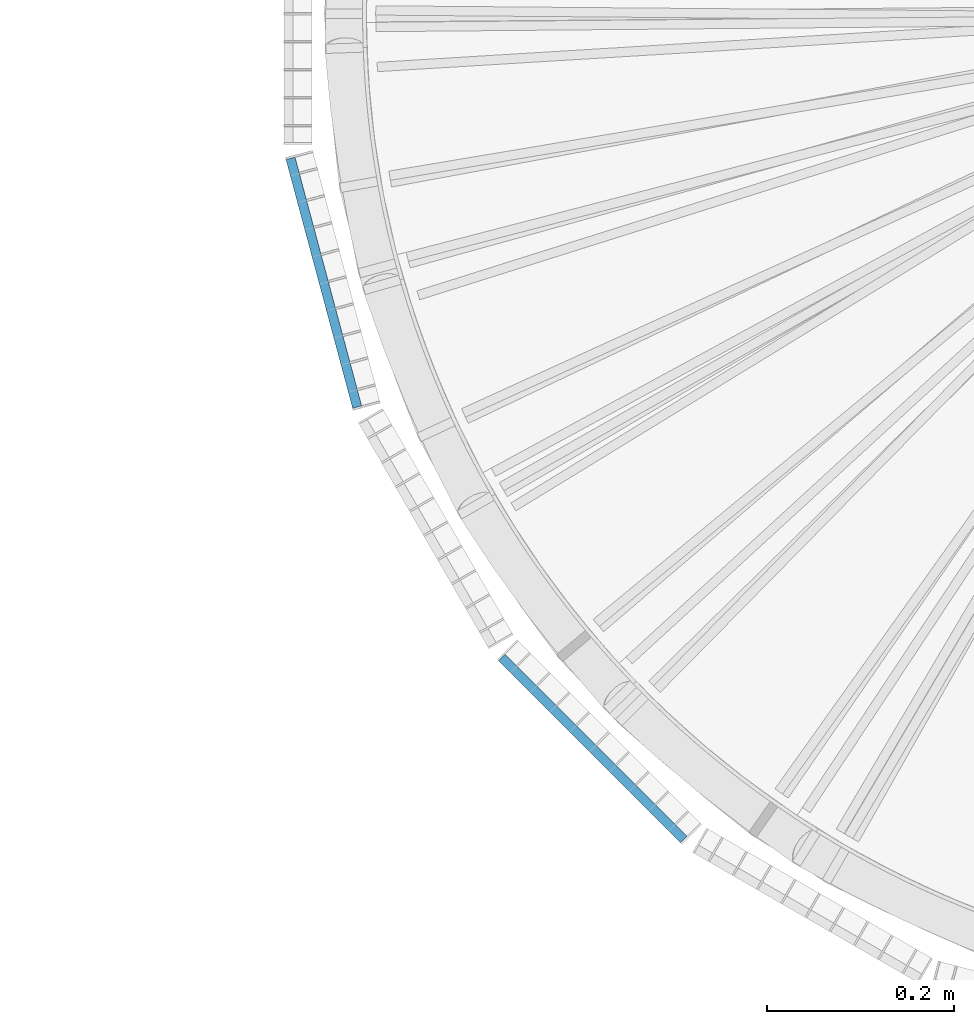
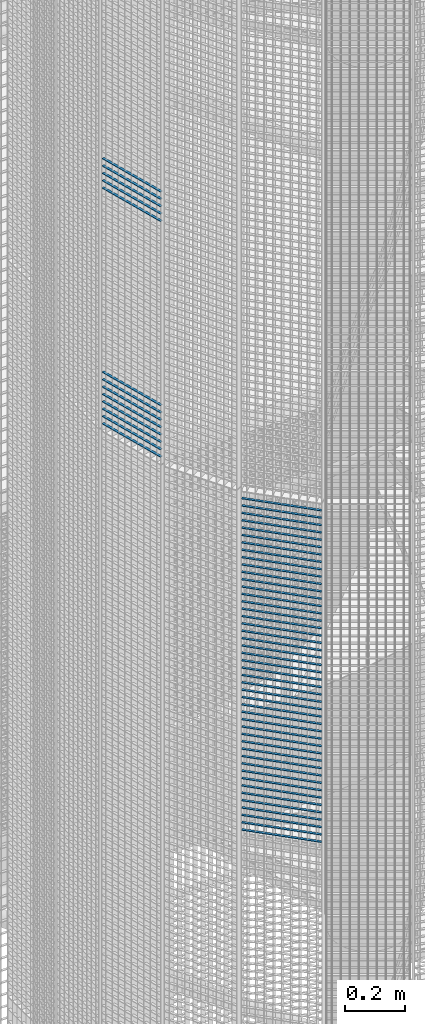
# One storey, part 119 of 1183: 59 beams, 2 elements without a shape of their own.
"""IFC2X3 building model written with IfcOpenShell, lengths in millimetres."""

from ifc_helpers import new_model, si_unit, frame, origin_with_axes, origin_2d_with_axis, place, context, subcontext, project, spatial, rectangle, extrude, material, type_object, element, aggregate, save


model = new_model("IFC2X3")

# Units and contexts
model_context = context("Model", 3, precision=1e-05, world=origin_with_axes())
body_context = subcontext(model_context, "Body", "Model", "MODEL_VIEW")
ifc_project = project(units=[si_unit("LENGTHUNIT", "METRE", prefix="MILLI"), si_unit("AREAUNIT", "SQUARE_METRE"), si_unit("VOLUMEUNIT", "CUBIC_METRE"), si_unit("MASSUNIT", "GRAM", prefix="KILO"), si_unit("TIMEUNIT", "SECOND"), si_unit("PLANEANGLEUNIT", "RADIAN"), si_unit("SOLIDANGLEUNIT", "STERADIAN"), si_unit("THERMODYNAMICTEMPERATUREUNIT", "DEGREE_CELSIUS"), si_unit("LUMINOUSINTENSITYUNIT", "LUMEN")], contexts=[model_context])

# Site, building, storey
site_placement = place(None, origin_with_axes())
site = spatial("IfcSite", under=ifc_project, at=site_placement, Name="Undefined", CompositionType="ELEMENT")
building_placement = place(site_placement, origin_with_axes())
building = spatial("IfcBuilding", under=site, at=building_placement, Name="Undefined", CompositionType="ELEMENT")
storey_placement = place(building_placement, origin_with_axes())
storey = spatial("IfcBuildingStorey", under=building, at=storey_placement, Name="Undefined", CompositionType="ELEMENT", Elevation=0.0)

# Assembly, beams
assembly_1_placement = place(storey_placement, origin_with_axes())
assembly_1 = element("IfcElementAssembly", 1, at=assembly_1_placement, inside=storey, Name="BORDURE", AssemblyPlace="NOTDEFINED", PredefinedType="NOTDEFINED")
ifc_material = material(Name="STEEL/S235JR")
beam_type = type_object("IfcBeamType", Name="PL2*10", PredefinedType="NOTDEFINED")
beam_1_placement = place(assembly_1_placement, frame((-1111.25508286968, -154.895926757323, 9990.0), z_axis=(-0.965925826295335, -0.258819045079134, 0.0), x_axis=(0.258819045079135, -0.965925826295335, 0.0)))
beam_1 = element("IfcBeam", 2, at=beam_1_placement, type_object=beam_type, material=ifc_material, Name="ENTRETOISE", context=body_context, shape_type="SweptSolid", body=[
    extrude(rectangle(XDim=2.0, YDim=10.0, at=origin_2d_with_axis()), frame((275.999999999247, 9.09494701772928e-13, 1.53210777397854e-14), z_axis=(-1.0, 0.0, 0.0), x_axis=(0.0, -1.0, 0.0)), (0.0, 0.0, 1.0), 276.0),
])
beam_2_placement = place(assembly_1_placement, frame((-1111.25508286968, -154.895926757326, 9240.0), z_axis=(-0.965925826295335, -0.258819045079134, 0.0), x_axis=(0.258819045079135, -0.965925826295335, 0.0)))
beam_2 = element("IfcBeam", 3, at=beam_2_placement, type_object=beam_type, material=ifc_material, Name="ENTRETOISE", context=body_context, shape_type="SweptSolid", body=[
    extrude(rectangle(XDim=2.0, YDim=10.0, at=origin_2d_with_axis()), frame((275.999999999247, 9.09494701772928e-13, 1.53210777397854e-14), z_axis=(-1.0, 0.0, 0.0), x_axis=(0.0, -1.0, 0.0)), (0.0, 0.0, 1.0), 276.0),
])
beam_3_placement = place(assembly_1_placement, frame((-1111.25508286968, -154.895926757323, 10020.0), z_axis=(-0.965925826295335, -0.258819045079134, 0.0), x_axis=(0.258819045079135, -0.965925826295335, 0.0)))
beam_3 = element("IfcBeam", 4, at=beam_3_placement, type_object=beam_type, material=ifc_material, Name="ENTRETOISE", context=body_context, shape_type="SweptSolid", body=[
    extrude(rectangle(XDim=2.0, YDim=10.0, at=origin_2d_with_axis()), frame((275.999999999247, 9.09494701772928e-13, 1.53210777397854e-14), z_axis=(-1.0, 0.0, 0.0), x_axis=(0.0, -1.0, 0.0)), (0.0, 0.0, 1.0), 276.0),
])
beam_4_placement = place(assembly_1_placement, frame((-1111.25508286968, -154.895926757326, 9210.0), z_axis=(-0.965925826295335, -0.258819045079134, 0.0), x_axis=(0.258819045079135, -0.965925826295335, 0.0)))
beam_4 = element("IfcBeam", 5, at=beam_4_placement, type_object=beam_type, material=ifc_material, Name="ENTRETOISE", context=body_context, shape_type="SweptSolid", body=[
    extrude(rectangle(XDim=2.0, YDim=10.0, at=origin_2d_with_axis()), frame((275.999999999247, 9.09494701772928e-13, 1.53210777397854e-14), z_axis=(-1.0, 0.0, 0.0), x_axis=(0.0, -1.0, 0.0)), (0.0, 0.0, 1.0), 276.0),
])
beam_5_placement = place(assembly_1_placement, frame((-1111.25508286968, -154.895926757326, 9180.0), z_axis=(-0.965925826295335, -0.258819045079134, 0.0), x_axis=(0.258819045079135, -0.965925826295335, 0.0)))
beam_5 = element("IfcBeam", 6, at=beam_5_placement, type_object=beam_type, material=ifc_material, Name="ENTRETOISE", context=body_context, shape_type="SweptSolid", body=[
    extrude(rectangle(XDim=2.0, YDim=10.0, at=origin_2d_with_axis()), frame((275.999999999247, 9.09494701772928e-13, 1.53210777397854e-14), z_axis=(-1.0, 0.0, 0.0), x_axis=(0.0, -1.0, 0.0)), (0.0, 0.0, 1.0), 276.0),
])
beam_6_placement = place(assembly_1_placement, frame((-1111.25508286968, -154.895926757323, 10050.0), z_axis=(-0.965925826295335, -0.258819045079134, 0.0), x_axis=(0.258819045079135, -0.965925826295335, 0.0)))
beam_6 = element("IfcBeam", 7, at=beam_6_placement, type_object=beam_type, material=ifc_material, Name="ENTRETOISE", context=body_context, shape_type="SweptSolid", body=[
    extrude(rectangle(XDim=2.0, YDim=10.0, at=origin_2d_with_axis()), frame((275.999999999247, 9.09494701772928e-13, 1.53210777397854e-14), z_axis=(-1.0, 0.0, 0.0), x_axis=(0.0, -1.0, 0.0)), (0.0, 0.0, 1.0), 276.0),
])
beam_7_placement = place(assembly_1_placement, frame((-1111.25508286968, -154.895926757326, 9150.0), z_axis=(-0.965925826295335, -0.258819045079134, 0.0), x_axis=(0.258819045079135, -0.965925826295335, 0.0)))
beam_7 = element("IfcBeam", 8, at=beam_7_placement, type_object=beam_type, material=ifc_material, Name="ENTRETOISE", context=body_context, shape_type="SweptSolid", body=[
    extrude(rectangle(XDim=2.0, YDim=10.0, at=origin_2d_with_axis()), frame((275.999999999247, 9.09494701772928e-13, 1.53210777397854e-14), z_axis=(-1.0, 0.0, 0.0), x_axis=(0.0, -1.0, 0.0)), (0.0, 0.0, 1.0), 276.0),
])
beam_8_placement = place(assembly_1_placement, frame((-1111.25508286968, -154.895926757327, 9120.0), z_axis=(-0.965925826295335, -0.258819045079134, 0.0), x_axis=(0.258819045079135, -0.965925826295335, 0.0)))
beam_8 = element("IfcBeam", 9, at=beam_8_placement, type_object=beam_type, material=ifc_material, Name="ENTRETOISE", context=body_context, shape_type="SweptSolid", body=[
    extrude(rectangle(XDim=2.0, YDim=10.0, at=origin_2d_with_axis()), frame((275.999999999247, 9.09494701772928e-13, 1.53210777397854e-14), z_axis=(-1.0, 0.0, 0.0), x_axis=(0.0, -1.0, 0.0)), (0.0, 0.0, 1.0), 276.0),
])
beam_9_placement = place(assembly_1_placement, frame((-1111.25508286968, -154.895926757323, 10080.0), z_axis=(-0.965925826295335, -0.258819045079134, 0.0), x_axis=(0.258819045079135, -0.965925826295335, 0.0)))
beam_9 = element("IfcBeam", 10, at=beam_9_placement, type_object=beam_type, material=ifc_material, Name="ENTRETOISE", context=body_context, shape_type="SweptSolid", body=[
    extrude(rectangle(XDim=2.0, YDim=10.0, at=origin_2d_with_axis()), frame((275.999999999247, 9.09494701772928e-13, 1.53210777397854e-14), z_axis=(-1.0, 0.0, 0.0), x_axis=(0.0, -1.0, 0.0)), (0.0, 0.0, 1.0), 276.0),
])
beam_10_placement = place(assembly_1_placement, frame((-1111.25508286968, -154.895926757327, 9090.0), z_axis=(-0.965925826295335, -0.258819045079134, 0.0), x_axis=(0.258819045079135, -0.965925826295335, 0.0)))
beam_10 = element("IfcBeam", 11, at=beam_10_placement, type_object=beam_type, material=ifc_material, Name="ENTRETOISE", context=body_context, shape_type="SweptSolid", body=[
    extrude(rectangle(XDim=2.0, YDim=10.0, at=origin_2d_with_axis()), frame((275.999999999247, 9.09494701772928e-13, 1.53210777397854e-14), z_axis=(-1.0, 0.0, 0.0), x_axis=(0.0, -1.0, 0.0)), (0.0, 0.0, 1.0), 276.0),
])
beam_11_placement = place(assembly_1_placement, frame((-1111.25508286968, -154.895926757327, 9060.0), z_axis=(-0.965925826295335, -0.258819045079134, 0.0), x_axis=(0.258819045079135, -0.965925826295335, 0.0)))
beam_11 = element("IfcBeam", 12, at=beam_11_placement, type_object=beam_type, material=ifc_material, Name="ENTRETOISE", context=body_context, shape_type="SweptSolid", body=[
    extrude(rectangle(XDim=2.0, YDim=10.0, at=origin_2d_with_axis()), frame((275.999999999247, 9.09494701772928e-13, 1.53210777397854e-14), z_axis=(-1.0, 0.0, 0.0), x_axis=(0.0, -1.0, 0.0)), (0.0, 0.0, 1.0), 276.0),
])
beam_12_placement = place(assembly_1_placement, frame((-1111.25508286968, -154.895926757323, 10110.0), z_axis=(-0.965925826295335, -0.258819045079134, 0.0), x_axis=(0.258819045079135, -0.965925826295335, 0.0)))
beam_12 = element("IfcBeam", 13, at=beam_12_placement, type_object=beam_type, material=ifc_material, Name="ENTRETOISE", context=body_context, shape_type="SweptSolid", body=[
    extrude(rectangle(XDim=2.0, YDim=10.0, at=origin_2d_with_axis()), frame((275.999999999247, 9.09494701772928e-13, 1.53210777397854e-14), z_axis=(-1.0, 0.0, 0.0), x_axis=(0.0, -1.0, 0.0)), (0.0, 0.0, 1.0), 276.0),
])
beam_13_placement = place(assembly_1_placement, frame((-1111.25508286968, -154.895926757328, 9030.0), z_axis=(-0.965925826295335, -0.258819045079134, 0.0), x_axis=(0.258819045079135, -0.965925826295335, 0.0)))
beam_13 = element("IfcBeam", 14, at=beam_13_placement, type_object=beam_type, material=ifc_material, Name="ENTRETOISE", context=body_context, shape_type="SweptSolid", body=[
    extrude(rectangle(XDim=2.0, YDim=10.0, at=origin_2d_with_axis()), frame((275.999999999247, 9.09494701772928e-13, 1.53210777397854e-14), z_axis=(-1.0, 0.0, 0.0), x_axis=(0.0, -1.0, 0.0)), (0.0, 0.0, 1.0), 276.0),
])
aggregate(assembly_1, [beam_1, beam_2, beam_3, beam_4, beam_5, beam_6, beam_7, beam_8, beam_9, beam_10, beam_11, beam_12, beam_13])

assembly_2_placement = place(storey_placement, origin_with_axes())
assembly_2 = element("IfcElementAssembly", 15, at=assembly_2_placement, inside=storey, Name="BORDURE", AssemblyPlace="NOTDEFINED", PredefinedType="NOTDEFINED")
beam_14_placement = place(assembly_2_placement, frame((-884.927168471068, -689.771348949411, 8970.0), z_axis=(-0.70710678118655, -0.707106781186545, 0.0), x_axis=(0.707106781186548, -0.707106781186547, 0.0)))
beam_14 = element("IfcBeam", 16, at=beam_14_placement, type_object=beam_type, material=ifc_material, Name="ENTRETOISE", context=body_context, shape_type="SweptSolid", body=[
    extrude(rectangle(XDim=2.0, YDim=10.0, at=origin_2d_with_axis()), frame((275.999999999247, 9.09494701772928e-13, 1.53210777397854e-14), z_axis=(-1.0, 0.0, 0.0), x_axis=(0.0, -1.0, 0.0)), (0.0, 0.0, 1.0), 276.0),
])
beam_15_placement = place(assembly_2_placement, frame((-884.927168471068, -689.771348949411, 8940.0), z_axis=(-0.70710678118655, -0.707106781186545, 0.0), x_axis=(0.707106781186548, -0.707106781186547, 0.0)))
beam_15 = element("IfcBeam", 17, at=beam_15_placement, type_object=beam_type, material=ifc_material, Name="ENTRETOISE", context=body_context, shape_type="SweptSolid", body=[
    extrude(rectangle(XDim=2.0, YDim=10.0, at=origin_2d_with_axis()), frame((275.999999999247, 9.09494701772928e-13, 1.53210777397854e-14), z_axis=(-1.0, 0.0, 0.0), x_axis=(0.0, -1.0, 0.0)), (0.0, 0.0, 1.0), 276.0),
])
beam_16_placement = place(assembly_2_placement, frame((-884.927168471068, -689.771348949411, 8910.0), z_axis=(-0.70710678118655, -0.707106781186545, 0.0), x_axis=(0.707106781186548, -0.707106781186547, 0.0)))
beam_16 = element("IfcBeam", 18, at=beam_16_placement, type_object=beam_type, material=ifc_material, Name="ENTRETOISE", context=body_context, shape_type="SweptSolid", body=[
    extrude(rectangle(XDim=2.0, YDim=10.0, at=origin_2d_with_axis()), frame((275.999999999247, 9.09494701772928e-13, 1.53210777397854e-14), z_axis=(-1.0, 0.0, 0.0), x_axis=(0.0, -1.0, 0.0)), (0.0, 0.0, 1.0), 276.0),
])
beam_17_placement = place(assembly_2_placement, frame((-884.927168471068, -689.771348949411, 8880.0), z_axis=(-0.70710678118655, -0.707106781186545, 0.0), x_axis=(0.707106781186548, -0.707106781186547, 0.0)))
beam_17 = element("IfcBeam", 19, at=beam_17_placement, type_object=beam_type, material=ifc_material, Name="ENTRETOISE", context=body_context, shape_type="SweptSolid", body=[
    extrude(rectangle(XDim=2.0, YDim=10.0, at=origin_2d_with_axis()), frame((275.999999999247, 9.09494701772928e-13, 1.53210777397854e-14), z_axis=(-1.0, 0.0, 0.0), x_axis=(0.0, -1.0, 0.0)), (0.0, 0.0, 1.0), 276.0),
])
beam_18_placement = place(assembly_2_placement, frame((-884.927168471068, -689.771348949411, 8850.0), z_axis=(-0.70710678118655, -0.707106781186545, 0.0), x_axis=(0.707106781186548, -0.707106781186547, 0.0)))
beam_18 = element("IfcBeam", 20, at=beam_18_placement, type_object=beam_type, material=ifc_material, Name="ENTRETOISE", context=body_context, shape_type="SweptSolid", body=[
    extrude(rectangle(XDim=2.0, YDim=10.0, at=origin_2d_with_axis()), frame((275.999999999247, 9.09494701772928e-13, 1.53210777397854e-14), z_axis=(-1.0, 0.0, 0.0), x_axis=(0.0, -1.0, 0.0)), (0.0, 0.0, 1.0), 276.0),
])
beam_19_placement = place(assembly_2_placement, frame((-884.927168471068, -689.771348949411, 8820.0), z_axis=(-0.70710678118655, -0.707106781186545, 0.0), x_axis=(0.707106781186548, -0.707106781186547, 0.0)))
beam_19 = element("IfcBeam", 21, at=beam_19_placement, type_object=beam_type, material=ifc_material, Name="ENTRETOISE", context=body_context, shape_type="SweptSolid", body=[
    extrude(rectangle(XDim=2.0, YDim=10.0, at=origin_2d_with_axis()), frame((275.999999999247, 9.09494701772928e-13, 1.53210777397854e-14), z_axis=(-1.0, 0.0, 0.0), x_axis=(0.0, -1.0, 0.0)), (0.0, 0.0, 1.0), 276.0),
])
beam_20_placement = place(assembly_2_placement, frame((-884.927168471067, -689.771348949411, 8790.0), z_axis=(-0.70710678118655, -0.707106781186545, 0.0), x_axis=(0.707106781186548, -0.707106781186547, 0.0)))
beam_20 = element("IfcBeam", 22, at=beam_20_placement, type_object=beam_type, material=ifc_material, Name="ENTRETOISE", context=body_context, shape_type="SweptSolid", body=[
    extrude(rectangle(XDim=2.0, YDim=10.0, at=origin_2d_with_axis()), frame((275.999999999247, 9.09494701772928e-13, 1.53210777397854e-14), z_axis=(-1.0, 0.0, 0.0), x_axis=(0.0, -1.0, 0.0)), (0.0, 0.0, 1.0), 276.0),
])
beam_21_placement = place(assembly_2_placement, frame((-884.927168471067, -689.771348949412, 8760.0), z_axis=(-0.70710678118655, -0.707106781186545, 0.0), x_axis=(0.707106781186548, -0.707106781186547, 0.0)))
beam_21 = element("IfcBeam", 23, at=beam_21_placement, type_object=beam_type, material=ifc_material, Name="ENTRETOISE", context=body_context, shape_type="SweptSolid", body=[
    extrude(rectangle(XDim=2.0, YDim=10.0, at=origin_2d_with_axis()), frame((275.999999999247, 9.09494701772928e-13, 1.53210777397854e-14), z_axis=(-1.0, 0.0, 0.0), x_axis=(0.0, -1.0, 0.0)), (0.0, 0.0, 1.0), 276.0),
])
beam_22_placement = place(assembly_2_placement, frame((-884.927168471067, -689.771348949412, 8730.0), z_axis=(-0.70710678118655, -0.707106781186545, 0.0), x_axis=(0.707106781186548, -0.707106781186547, 0.0)))
beam_22 = element("IfcBeam", 24, at=beam_22_placement, type_object=beam_type, material=ifc_material, Name="ENTRETOISE", context=body_context, shape_type="SweptSolid", body=[
    extrude(rectangle(XDim=2.0, YDim=10.0, at=origin_2d_with_axis()), frame((275.999999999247, 9.09494701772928e-13, 1.53210777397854e-14), z_axis=(-1.0, 0.0, 0.0), x_axis=(0.0, -1.0, 0.0)), (0.0, 0.0, 1.0), 276.0),
])
beam_23_placement = place(assembly_2_placement, frame((-884.927168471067, -689.771348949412, 8700.0), z_axis=(-0.70710678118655, -0.707106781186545, 0.0), x_axis=(0.707106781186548, -0.707106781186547, 0.0)))
beam_23 = element("IfcBeam", 25, at=beam_23_placement, type_object=beam_type, material=ifc_material, Name="ENTRETOISE", context=body_context, shape_type="SweptSolid", body=[
    extrude(rectangle(XDim=2.0, YDim=10.0, at=origin_2d_with_axis()), frame((275.999999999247, 9.09494701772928e-13, 1.53210777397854e-14), z_axis=(-1.0, 0.0, 0.0), x_axis=(0.0, -1.0, 0.0)), (0.0, 0.0, 1.0), 276.0),
])
beam_24_placement = place(assembly_2_placement, frame((-884.927168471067, -689.771348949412, 8670.0), z_axis=(-0.70710678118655, -0.707106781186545, 0.0), x_axis=(0.707106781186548, -0.707106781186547, 0.0)))
beam_24 = element("IfcBeam", 26, at=beam_24_placement, type_object=beam_type, material=ifc_material, Name="ENTRETOISE", context=body_context, shape_type="SweptSolid", body=[
    extrude(rectangle(XDim=2.0, YDim=10.0, at=origin_2d_with_axis()), frame((275.999999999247, 9.09494701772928e-13, 1.53210777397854e-14), z_axis=(-1.0, 0.0, 0.0), x_axis=(0.0, -1.0, 0.0)), (0.0, 0.0, 1.0), 276.0),
])
beam_25_placement = place(assembly_2_placement, frame((-884.927168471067, -689.771348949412, 8640.0), z_axis=(-0.70710678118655, -0.707106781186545, 0.0), x_axis=(0.707106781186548, -0.707106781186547, 0.0)))
beam_25 = element("IfcBeam", 27, at=beam_25_placement, type_object=beam_type, material=ifc_material, Name="ENTRETOISE", context=body_context, shape_type="SweptSolid", body=[
    extrude(rectangle(XDim=2.0, YDim=10.0, at=origin_2d_with_axis()), frame((275.999999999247, 9.09494701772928e-13, 1.53210777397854e-14), z_axis=(-1.0, 0.0, 0.0), x_axis=(0.0, -1.0, 0.0)), (0.0, 0.0, 1.0), 276.0),
])
beam_26_placement = place(assembly_2_placement, frame((-884.927168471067, -689.771348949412, 8610.0), z_axis=(-0.70710678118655, -0.707106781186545, 0.0), x_axis=(0.707106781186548, -0.707106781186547, 0.0)))
beam_26 = element("IfcBeam", 28, at=beam_26_placement, type_object=beam_type, material=ifc_material, Name="ENTRETOISE", context=body_context, shape_type="SweptSolid", body=[
    extrude(rectangle(XDim=2.0, YDim=10.0, at=origin_2d_with_axis()), frame((275.999999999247, 9.09494701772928e-13, 1.53210777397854e-14), z_axis=(-1.0, 0.0, 0.0), x_axis=(0.0, -1.0, 0.0)), (0.0, 0.0, 1.0), 276.0),
])
beam_27_placement = place(assembly_2_placement, frame((-884.927168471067, -689.771348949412, 8580.0), z_axis=(-0.70710678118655, -0.707106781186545, 0.0), x_axis=(0.707106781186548, -0.707106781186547, 0.0)))
beam_27 = element("IfcBeam", 29, at=beam_27_placement, type_object=beam_type, material=ifc_material, Name="ENTRETOISE", context=body_context, shape_type="SweptSolid", body=[
    extrude(rectangle(XDim=2.0, YDim=10.0, at=origin_2d_with_axis()), frame((275.999999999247, 9.09494701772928e-13, 1.53210777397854e-14), z_axis=(-1.0, 0.0, 0.0), x_axis=(0.0, -1.0, 0.0)), (0.0, 0.0, 1.0), 276.0),
])
beam_28_placement = place(assembly_2_placement, frame((-884.927168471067, -689.771348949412, 8550.0), z_axis=(-0.70710678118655, -0.707106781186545, 0.0), x_axis=(0.707106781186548, -0.707106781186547, 0.0)))
beam_28 = element("IfcBeam", 30, at=beam_28_placement, type_object=beam_type, material=ifc_material, Name="ENTRETOISE", context=body_context, shape_type="SweptSolid", body=[
    extrude(rectangle(XDim=2.0, YDim=10.0, at=origin_2d_with_axis()), frame((275.999999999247, 9.09494701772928e-13, 1.53210777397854e-14), z_axis=(-1.0, 0.0, 0.0), x_axis=(0.0, -1.0, 0.0)), (0.0, 0.0, 1.0), 276.0),
])
beam_29_placement = place(assembly_2_placement, frame((-884.927168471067, -689.771348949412, 8520.0), z_axis=(-0.70710678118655, -0.707106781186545, 0.0), x_axis=(0.707106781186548, -0.707106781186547, 0.0)))
beam_29 = element("IfcBeam", 31, at=beam_29_placement, type_object=beam_type, material=ifc_material, Name="ENTRETOISE", context=body_context, shape_type="SweptSolid", body=[
    extrude(rectangle(XDim=2.0, YDim=10.0, at=origin_2d_with_axis()), frame((275.999999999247, 9.09494701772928e-13, 1.53210777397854e-14), z_axis=(-1.0, 0.0, 0.0), x_axis=(0.0, -1.0, 0.0)), (0.0, 0.0, 1.0), 276.0),
])
beam_30_placement = place(assembly_2_placement, frame((-884.927168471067, -689.771348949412, 8490.0), z_axis=(-0.70710678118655, -0.707106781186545, 0.0), x_axis=(0.707106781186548, -0.707106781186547, 0.0)))
beam_30 = element("IfcBeam", 32, at=beam_30_placement, type_object=beam_type, material=ifc_material, Name="ENTRETOISE", context=body_context, shape_type="SweptSolid", body=[
    extrude(rectangle(XDim=2.0, YDim=10.0, at=origin_2d_with_axis()), frame((275.999999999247, 9.09494701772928e-13, 1.53210777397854e-14), z_axis=(-1.0, 0.0, 0.0), x_axis=(0.0, -1.0, 0.0)), (0.0, 0.0, 1.0), 276.0),
])
beam_31_placement = place(assembly_2_placement, frame((-884.927168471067, -689.771348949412, 8460.0), z_axis=(-0.70710678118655, -0.707106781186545, 0.0), x_axis=(0.707106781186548, -0.707106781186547, 0.0)))
beam_31 = element("IfcBeam", 33, at=beam_31_placement, type_object=beam_type, material=ifc_material, Name="ENTRETOISE", context=body_context, shape_type="SweptSolid", body=[
    extrude(rectangle(XDim=2.0, YDim=10.0, at=origin_2d_with_axis()), frame((275.999999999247, 9.09494701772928e-13, 1.53210777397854e-14), z_axis=(-1.0, 0.0, 0.0), x_axis=(0.0, -1.0, 0.0)), (0.0, 0.0, 1.0), 276.0),
])
beam_32_placement = place(assembly_2_placement, frame((-884.927168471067, -689.771348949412, 8430.0), z_axis=(-0.70710678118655, -0.707106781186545, 0.0), x_axis=(0.707106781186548, -0.707106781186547, 0.0)))
beam_32 = element("IfcBeam", 34, at=beam_32_placement, type_object=beam_type, material=ifc_material, Name="ENTRETOISE", context=body_context, shape_type="SweptSolid", body=[
    extrude(rectangle(XDim=2.0, YDim=10.0, at=origin_2d_with_axis()), frame((275.999999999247, 9.09494701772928e-13, 1.53210777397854e-14), z_axis=(-1.0, 0.0, 0.0), x_axis=(0.0, -1.0, 0.0)), (0.0, 0.0, 1.0), 276.0),
])
beam_33_placement = place(assembly_2_placement, frame((-884.927168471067, -689.771348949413, 8400.0), z_axis=(-0.70710678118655, -0.707106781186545, 0.0), x_axis=(0.707106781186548, -0.707106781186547, 0.0)))
beam_33 = element("IfcBeam", 35, at=beam_33_placement, type_object=beam_type, material=ifc_material, Name="ENTRETOISE", context=body_context, shape_type="SweptSolid", body=[
    extrude(rectangle(XDim=2.0, YDim=10.0, at=origin_2d_with_axis()), frame((275.999999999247, 9.09494701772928e-13, 1.53210777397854e-14), z_axis=(-1.0, 0.0, 0.0), x_axis=(0.0, -1.0, 0.0)), (0.0, 0.0, 1.0), 276.0),
])
beam_34_placement = place(assembly_2_placement, frame((-884.927168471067, -689.771348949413, 8370.0), z_axis=(-0.70710678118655, -0.707106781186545, 0.0), x_axis=(0.707106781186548, -0.707106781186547, 0.0)))
beam_34 = element("IfcBeam", 36, at=beam_34_placement, type_object=beam_type, material=ifc_material, Name="ENTRETOISE", context=body_context, shape_type="SweptSolid", body=[
    extrude(rectangle(XDim=2.0, YDim=10.0, at=origin_2d_with_axis()), frame((275.999999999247, 9.09494701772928e-13, 1.53210777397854e-14), z_axis=(-1.0, 0.0, 0.0), x_axis=(0.0, -1.0, 0.0)), (0.0, 0.0, 1.0), 276.0),
])
beam_35_placement = place(assembly_2_placement, frame((-884.927168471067, -689.771348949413, 8340.0), z_axis=(-0.70710678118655, -0.707106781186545, 0.0), x_axis=(0.707106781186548, -0.707106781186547, 0.0)))
beam_35 = element("IfcBeam", 37, at=beam_35_placement, type_object=beam_type, material=ifc_material, Name="ENTRETOISE", context=body_context, shape_type="SweptSolid", body=[
    extrude(rectangle(XDim=2.0, YDim=10.0, at=origin_2d_with_axis()), frame((275.999999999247, 9.09494701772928e-13, 1.53210777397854e-14), z_axis=(-1.0, 0.0, 0.0), x_axis=(0.0, -1.0, 0.0)), (0.0, 0.0, 1.0), 276.0),
])
beam_36_placement = place(assembly_2_placement, frame((-884.927168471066, -689.771348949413, 8310.0), z_axis=(-0.70710678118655, -0.707106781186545, 0.0), x_axis=(0.707106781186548, -0.707106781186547, 0.0)))
beam_36 = element("IfcBeam", 38, at=beam_36_placement, type_object=beam_type, material=ifc_material, Name="ENTRETOISE", context=body_context, shape_type="SweptSolid", body=[
    extrude(rectangle(XDim=2.0, YDim=10.0, at=origin_2d_with_axis()), frame((275.999999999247, 9.09494701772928e-13, 1.53210777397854e-14), z_axis=(-1.0, 0.0, 0.0), x_axis=(0.0, -1.0, 0.0)), (0.0, 0.0, 1.0), 276.0),
])
beam_37_placement = place(assembly_2_placement, frame((-884.927168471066, -689.771348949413, 8280.0), z_axis=(-0.70710678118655, -0.707106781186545, 0.0), x_axis=(0.707106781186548, -0.707106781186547, 0.0)))
beam_37 = element("IfcBeam", 39, at=beam_37_placement, type_object=beam_type, material=ifc_material, Name="ENTRETOISE", context=body_context, shape_type="SweptSolid", body=[
    extrude(rectangle(XDim=2.0, YDim=10.0, at=origin_2d_with_axis()), frame((275.999999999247, 9.09494701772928e-13, 1.53210777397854e-14), z_axis=(-1.0, 0.0, 0.0), x_axis=(0.0, -1.0, 0.0)), (0.0, 0.0, 1.0), 276.0),
])
beam_38_placement = place(assembly_2_placement, frame((-884.927168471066, -689.771348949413, 8250.0), z_axis=(-0.70710678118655, -0.707106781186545, 0.0), x_axis=(0.707106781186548, -0.707106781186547, 0.0)))
beam_38 = element("IfcBeam", 40, at=beam_38_placement, type_object=beam_type, material=ifc_material, Name="ENTRETOISE", context=body_context, shape_type="SweptSolid", body=[
    extrude(rectangle(XDim=2.0, YDim=10.0, at=origin_2d_with_axis()), frame((275.999999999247, 9.09494701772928e-13, 1.53210777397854e-14), z_axis=(-1.0, 0.0, 0.0), x_axis=(0.0, -1.0, 0.0)), (0.0, 0.0, 1.0), 276.0),
])
beam_39_placement = place(assembly_2_placement, frame((-884.927168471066, -689.771348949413, 8220.0), z_axis=(-0.70710678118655, -0.707106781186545, 0.0), x_axis=(0.707106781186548, -0.707106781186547, 0.0)))
beam_39 = element("IfcBeam", 41, at=beam_39_placement, type_object=beam_type, material=ifc_material, Name="ENTRETOISE", context=body_context, shape_type="SweptSolid", body=[
    extrude(rectangle(XDim=2.0, YDim=10.0, at=origin_2d_with_axis()), frame((275.999999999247, 9.09494701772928e-13, 1.53210777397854e-14), z_axis=(-1.0, 0.0, 0.0), x_axis=(0.0, -1.0, 0.0)), (0.0, 0.0, 1.0), 276.0),
])
beam_40_placement = place(assembly_2_placement, frame((-884.927168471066, -689.771348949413, 8190.0), z_axis=(-0.70710678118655, -0.707106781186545, 0.0), x_axis=(0.707106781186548, -0.707106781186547, 0.0)))
beam_40 = element("IfcBeam", 42, at=beam_40_placement, type_object=beam_type, material=ifc_material, Name="ENTRETOISE", context=body_context, shape_type="SweptSolid", body=[
    extrude(rectangle(XDim=2.0, YDim=10.0, at=origin_2d_with_axis()), frame((275.999999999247, 9.09494701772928e-13, 1.53210777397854e-14), z_axis=(-1.0, 0.0, 0.0), x_axis=(0.0, -1.0, 0.0)), (0.0, 0.0, 1.0), 276.0),
])
beam_41_placement = place(assembly_2_placement, frame((-884.927168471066, -689.771348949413, 8160.0), z_axis=(-0.70710678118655, -0.707106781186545, 0.0), x_axis=(0.707106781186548, -0.707106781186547, 0.0)))
beam_41 = element("IfcBeam", 43, at=beam_41_placement, type_object=beam_type, material=ifc_material, Name="ENTRETOISE", context=body_context, shape_type="SweptSolid", body=[
    extrude(rectangle(XDim=2.0, YDim=10.0, at=origin_2d_with_axis()), frame((275.999999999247, 9.09494701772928e-13, 1.53210777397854e-14), z_axis=(-1.0, 0.0, 0.0), x_axis=(0.0, -1.0, 0.0)), (0.0, 0.0, 1.0), 276.0),
])
beam_42_placement = place(assembly_2_placement, frame((-884.927168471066, -689.771348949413, 8130.0), z_axis=(-0.70710678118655, -0.707106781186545, 0.0), x_axis=(0.707106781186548, -0.707106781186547, 0.0)))
beam_42 = element("IfcBeam", 44, at=beam_42_placement, type_object=beam_type, material=ifc_material, Name="ENTRETOISE", context=body_context, shape_type="SweptSolid", body=[
    extrude(rectangle(XDim=2.0, YDim=10.0, at=origin_2d_with_axis()), frame((275.999999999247, 9.09494701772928e-13, 1.53210777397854e-14), z_axis=(-1.0, 0.0, 0.0), x_axis=(0.0, -1.0, 0.0)), (0.0, 0.0, 1.0), 276.0),
])
beam_43_placement = place(assembly_2_placement, frame((-884.927168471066, -689.771348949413, 8100.0), z_axis=(-0.70710678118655, -0.707106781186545, 0.0), x_axis=(0.707106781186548, -0.707106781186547, 0.0)))
beam_43 = element("IfcBeam", 45, at=beam_43_placement, type_object=beam_type, material=ifc_material, Name="ENTRETOISE", context=body_context, shape_type="SweptSolid", body=[
    extrude(rectangle(XDim=2.0, YDim=10.0, at=origin_2d_with_axis()), frame((275.999999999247, 9.09494701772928e-13, 1.53210777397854e-14), z_axis=(-1.0, 0.0, 0.0), x_axis=(0.0, -1.0, 0.0)), (0.0, 0.0, 1.0), 276.0),
])
beam_44_placement = place(assembly_2_placement, frame((-884.927168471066, -689.771348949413, 8070.0), z_axis=(-0.70710678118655, -0.707106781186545, 0.0), x_axis=(0.707106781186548, -0.707106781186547, 0.0)))
beam_44 = element("IfcBeam", 46, at=beam_44_placement, type_object=beam_type, material=ifc_material, Name="ENTRETOISE", context=body_context, shape_type="SweptSolid", body=[
    extrude(rectangle(XDim=2.0, YDim=10.0, at=origin_2d_with_axis()), frame((275.999999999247, 9.09494701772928e-13, 1.53210777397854e-14), z_axis=(-1.0, 0.0, 0.0), x_axis=(0.0, -1.0, 0.0)), (0.0, 0.0, 1.0), 276.0),
])
beam_45_placement = place(assembly_2_placement, frame((-884.927168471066, -689.771348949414, 8040.0), z_axis=(-0.70710678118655, -0.707106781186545, 0.0), x_axis=(0.707106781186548, -0.707106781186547, 0.0)))
beam_45 = element("IfcBeam", 47, at=beam_45_placement, type_object=beam_type, material=ifc_material, Name="ENTRETOISE", context=body_context, shape_type="SweptSolid", body=[
    extrude(rectangle(XDim=2.0, YDim=10.0, at=origin_2d_with_axis()), frame((275.999999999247, 9.09494701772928e-13, 1.53210777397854e-14), z_axis=(-1.0, 0.0, 0.0), x_axis=(0.0, -1.0, 0.0)), (0.0, 0.0, 1.0), 276.0),
])
beam_46_placement = place(assembly_2_placement, frame((-884.927168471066, -689.771348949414, 8010.0), z_axis=(-0.70710678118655, -0.707106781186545, 0.0), x_axis=(0.707106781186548, -0.707106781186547, 0.0)))
beam_46 = element("IfcBeam", 48, at=beam_46_placement, type_object=beam_type, material=ifc_material, Name="ENTRETOISE", context=body_context, shape_type="SweptSolid", body=[
    extrude(rectangle(XDim=2.0, YDim=10.0, at=origin_2d_with_axis()), frame((275.999999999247, 9.09494701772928e-13, 1.53210777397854e-14), z_axis=(-1.0, 0.0, 0.0), x_axis=(0.0, -1.0, 0.0)), (0.0, 0.0, 1.0), 276.0),
])
beam_47_placement = place(assembly_2_placement, frame((-884.927168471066, -689.771348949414, 7980.0), z_axis=(-0.70710678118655, -0.707106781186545, 0.0), x_axis=(0.707106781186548, -0.707106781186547, 0.0)))
beam_47 = element("IfcBeam", 49, at=beam_47_placement, type_object=beam_type, material=ifc_material, Name="ENTRETOISE", context=body_context, shape_type="SweptSolid", body=[
    extrude(rectangle(XDim=2.0, YDim=10.0, at=origin_2d_with_axis()), frame((275.999999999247, 9.09494701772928e-13, 1.53210777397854e-14), z_axis=(-1.0, 0.0, 0.0), x_axis=(0.0, -1.0, 0.0)), (0.0, 0.0, 1.0), 276.0),
])
beam_48_placement = place(assembly_2_placement, frame((-884.927168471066, -689.771348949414, 7950.0), z_axis=(-0.70710678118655, -0.707106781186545, 0.0), x_axis=(0.707106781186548, -0.707106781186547, 0.0)))
beam_48 = element("IfcBeam", 50, at=beam_48_placement, type_object=beam_type, material=ifc_material, Name="ENTRETOISE", context=body_context, shape_type="SweptSolid", body=[
    extrude(rectangle(XDim=2.0, YDim=10.0, at=origin_2d_with_axis()), frame((275.999999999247, 9.09494701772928e-13, 1.53210777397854e-14), z_axis=(-1.0, 0.0, 0.0), x_axis=(0.0, -1.0, 0.0)), (0.0, 0.0, 1.0), 276.0),
])
beam_49_placement = place(assembly_2_placement, frame((-884.927168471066, -689.771348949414, 7920.0), z_axis=(-0.70710678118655, -0.707106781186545, 0.0), x_axis=(0.707106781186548, -0.707106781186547, 0.0)))
beam_49 = element("IfcBeam", 51, at=beam_49_placement, type_object=beam_type, material=ifc_material, Name="ENTRETOISE", context=body_context, shape_type="SweptSolid", body=[
    extrude(rectangle(XDim=2.0, YDim=10.0, at=origin_2d_with_axis()), frame((275.999999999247, 9.09494701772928e-13, 1.53210777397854e-14), z_axis=(-1.0, 0.0, 0.0), x_axis=(0.0, -1.0, 0.0)), (0.0, 0.0, 1.0), 276.0),
])
beam_50_placement = place(assembly_2_placement, frame((-884.927168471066, -689.771348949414, 7890.0), z_axis=(-0.70710678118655, -0.707106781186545, 0.0), x_axis=(0.707106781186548, -0.707106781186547, 0.0)))
beam_50 = element("IfcBeam", 52, at=beam_50_placement, type_object=beam_type, material=ifc_material, Name="ENTRETOISE", context=body_context, shape_type="SweptSolid", body=[
    extrude(rectangle(XDim=2.0, YDim=10.0, at=origin_2d_with_axis()), frame((275.999999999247, 9.09494701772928e-13, 1.53210777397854e-14), z_axis=(-1.0, 0.0, 0.0), x_axis=(0.0, -1.0, 0.0)), (0.0, 0.0, 1.0), 276.0),
])
beam_51_placement = place(assembly_2_placement, frame((-884.927168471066, -689.771348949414, 7860.0), z_axis=(-0.70710678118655, -0.707106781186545, 0.0), x_axis=(0.707106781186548, -0.707106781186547, 0.0)))
beam_51 = element("IfcBeam", 53, at=beam_51_placement, type_object=beam_type, material=ifc_material, Name="ENTRETOISE", context=body_context, shape_type="SweptSolid", body=[
    extrude(rectangle(XDim=2.0, YDim=10.0, at=origin_2d_with_axis()), frame((275.999999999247, 9.09494701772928e-13, 1.53210777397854e-14), z_axis=(-1.0, 0.0, 0.0), x_axis=(0.0, -1.0, 0.0)), (0.0, 0.0, 1.0), 276.0),
])
beam_52_placement = place(assembly_2_placement, frame((-884.927168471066, -689.771348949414, 7830.0), z_axis=(-0.70710678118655, -0.707106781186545, 0.0), x_axis=(0.707106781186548, -0.707106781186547, 0.0)))
beam_52 = element("IfcBeam", 54, at=beam_52_placement, type_object=beam_type, material=ifc_material, Name="ENTRETOISE", context=body_context, shape_type="SweptSolid", body=[
    extrude(rectangle(XDim=2.0, YDim=10.0, at=origin_2d_with_axis()), frame((275.999999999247, 9.09494701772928e-13, 1.53210777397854e-14), z_axis=(-1.0, 0.0, 0.0), x_axis=(0.0, -1.0, 0.0)), (0.0, 0.0, 1.0), 276.0),
])
beam_53_placement = place(assembly_2_placement, frame((-884.927168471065, -689.771348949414, 7800.0), z_axis=(-0.70710678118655, -0.707106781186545, 0.0), x_axis=(0.707106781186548, -0.707106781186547, 0.0)))
beam_53 = element("IfcBeam", 55, at=beam_53_placement, type_object=beam_type, material=ifc_material, Name="ENTRETOISE", context=body_context, shape_type="SweptSolid", body=[
    extrude(rectangle(XDim=2.0, YDim=10.0, at=origin_2d_with_axis()), frame((275.999999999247, 9.09494701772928e-13, 1.53210777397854e-14), z_axis=(-1.0, 0.0, 0.0), x_axis=(0.0, -1.0, 0.0)), (0.0, 0.0, 1.0), 276.0),
])
beam_54_placement = place(assembly_2_placement, frame((-884.927168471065, -689.771348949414, 7770.0), z_axis=(-0.70710678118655, -0.707106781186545, 0.0), x_axis=(0.707106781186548, -0.707106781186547, 0.0)))
beam_54 = element("IfcBeam", 56, at=beam_54_placement, type_object=beam_type, material=ifc_material, Name="ENTRETOISE", context=body_context, shape_type="SweptSolid", body=[
    extrude(rectangle(XDim=2.0, YDim=10.0, at=origin_2d_with_axis()), frame((275.999999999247, 9.09494701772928e-13, 1.53210777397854e-14), z_axis=(-1.0, 0.0, 0.0), x_axis=(0.0, -1.0, 0.0)), (0.0, 0.0, 1.0), 276.0),
])
beam_55_placement = place(assembly_2_placement, frame((-884.927168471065, -689.771348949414, 7740.0), z_axis=(-0.70710678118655, -0.707106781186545, 0.0), x_axis=(0.707106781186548, -0.707106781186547, 0.0)))
beam_55 = element("IfcBeam", 57, at=beam_55_placement, type_object=beam_type, material=ifc_material, Name="ENTRETOISE", context=body_context, shape_type="SweptSolid", body=[
    extrude(rectangle(XDim=2.0, YDim=10.0, at=origin_2d_with_axis()), frame((275.999999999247, 9.09494701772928e-13, 1.53210777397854e-14), z_axis=(-1.0, 0.0, 0.0), x_axis=(0.0, -1.0, 0.0)), (0.0, 0.0, 1.0), 276.0),
])
beam_56_placement = place(assembly_2_placement, frame((-884.927168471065, -689.771348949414, 7710.0), z_axis=(-0.70710678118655, -0.707106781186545, 0.0), x_axis=(0.707106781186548, -0.707106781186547, 0.0)))
beam_56 = element("IfcBeam", 58, at=beam_56_placement, type_object=beam_type, material=ifc_material, Name="ENTRETOISE", context=body_context, shape_type="SweptSolid", body=[
    extrude(rectangle(XDim=2.0, YDim=10.0, at=origin_2d_with_axis()), frame((275.999999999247, 9.09494701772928e-13, 1.53210777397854e-14), z_axis=(-1.0, 0.0, 0.0), x_axis=(0.0, -1.0, 0.0)), (0.0, 0.0, 1.0), 276.0),
])
beam_57_placement = place(assembly_2_placement, frame((-884.927168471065, -689.771348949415, 7680.0), z_axis=(-0.70710678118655, -0.707106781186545, 0.0), x_axis=(0.707106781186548, -0.707106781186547, 0.0)))
beam_57 = element("IfcBeam", 59, at=beam_57_placement, type_object=beam_type, material=ifc_material, Name="ENTRETOISE", context=body_context, shape_type="SweptSolid", body=[
    extrude(rectangle(XDim=2.0, YDim=10.0, at=origin_2d_with_axis()), frame((275.999999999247, 9.09494701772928e-13, 1.53210777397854e-14), z_axis=(-1.0, 0.0, 0.0), x_axis=(0.0, -1.0, 0.0)), (0.0, 0.0, 1.0), 276.0),
])
beam_58_placement = place(assembly_2_placement, frame((-884.927168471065, -689.771348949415, 7650.0), z_axis=(-0.70710678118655, -0.707106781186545, 0.0), x_axis=(0.707106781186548, -0.707106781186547, 0.0)))
beam_58 = element("IfcBeam", 60, at=beam_58_placement, type_object=beam_type, material=ifc_material, Name="ENTRETOISE", context=body_context, shape_type="SweptSolid", body=[
    extrude(rectangle(XDim=2.0, YDim=10.0, at=origin_2d_with_axis()), frame((275.999999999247, 9.09494701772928e-13, 1.53210777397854e-14), z_axis=(-1.0, 0.0, 0.0), x_axis=(0.0, -1.0, 0.0)), (0.0, 0.0, 1.0), 276.0),
])
beam_59_placement = place(assembly_2_placement, frame((-884.927168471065, -689.771348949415, 7620.0), z_axis=(-0.70710678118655, -0.707106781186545, 0.0), x_axis=(0.707106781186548, -0.707106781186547, 0.0)))
beam_59 = element("IfcBeam", 61, at=beam_59_placement, type_object=beam_type, material=ifc_material, Name="ENTRETOISE", context=body_context, shape_type="SweptSolid", body=[
    extrude(rectangle(XDim=2.0, YDim=10.0, at=origin_2d_with_axis()), frame((275.999999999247, 9.09494701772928e-13, 1.53210777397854e-14), z_axis=(-1.0, 0.0, 0.0), x_axis=(0.0, -1.0, 0.0)), (0.0, 0.0, 1.0), 276.0),
])
aggregate(assembly_2, [beam_14, beam_15, beam_16, beam_17, beam_18, beam_19, beam_20, beam_21, beam_22, beam_23, beam_24, beam_25, beam_26, beam_27, beam_28, beam_29, beam_30, beam_31, beam_32, beam_33, beam_34, beam_35, beam_36, beam_37, beam_38, beam_39, beam_40, beam_41, beam_42, beam_43, beam_44, beam_45, beam_46, beam_47, beam_48, beam_49, beam_50, beam_51, beam_52, beam_53, beam_54, beam_55, beam_56, beam_57, beam_58, beam_59])

save(model, "model.ifc")
